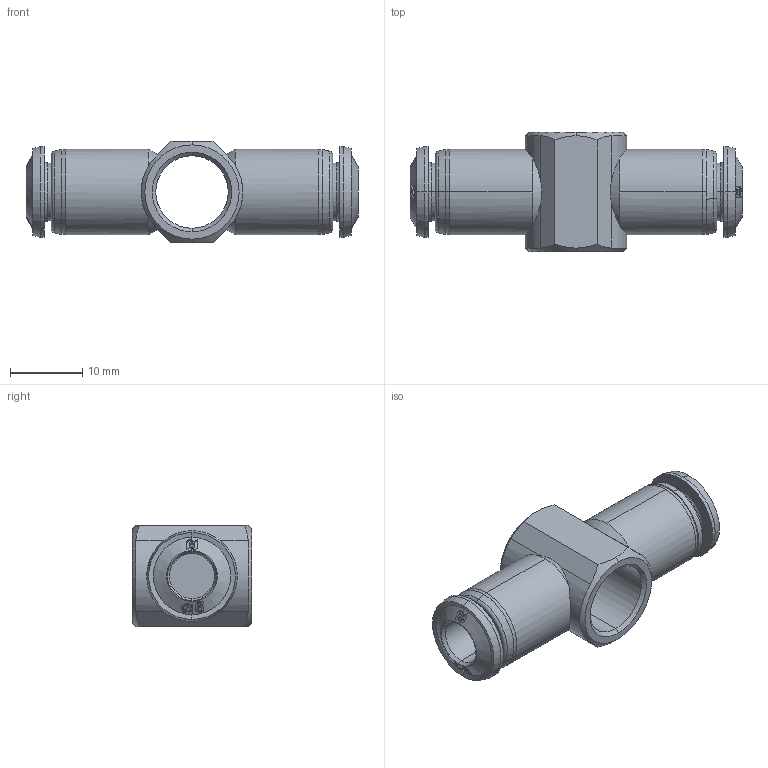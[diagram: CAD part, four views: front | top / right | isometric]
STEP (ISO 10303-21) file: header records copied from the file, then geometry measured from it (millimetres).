
FILE_DESCRIPTION (( 'STEP AP214' ), '1' );
FILE_NAME ('5551000010.step', '2012-10-02T17:51:38', ( '' ), ( '' ), 'SwSTEP 2.0', 'SolidWorks 2012', '' );
FILE_SCHEMA (( 'AUTOMOTIVE_DESIGN' ));
Length unit declared in the file: millimetre
Products named in the file (1): 5551000010
Bounding box: 45.8 x 16.5 x 14 mm (x, y, z)
Volume: 4377.7 mm3; surface area: 3143.1 mm2
Topology: 1 solids, 1 shells, 222 faces, 554 edges, 354 vertices
Faces by surface type: bspline 94, cone 64, cylinder 30, plane 22, torus 12
Entity records: 15224 total; most frequent: CARTESIAN_POINT 8329, ORIENTED_EDGE 1108, DIRECTION 584, EDGE_CURVE 554, VERTEX_POINT 354, B_SPLINE_CURVE_WITH_KNOTS 342, AXIS2_PLACEMENT_3D 249, EDGE_LOOP 244
